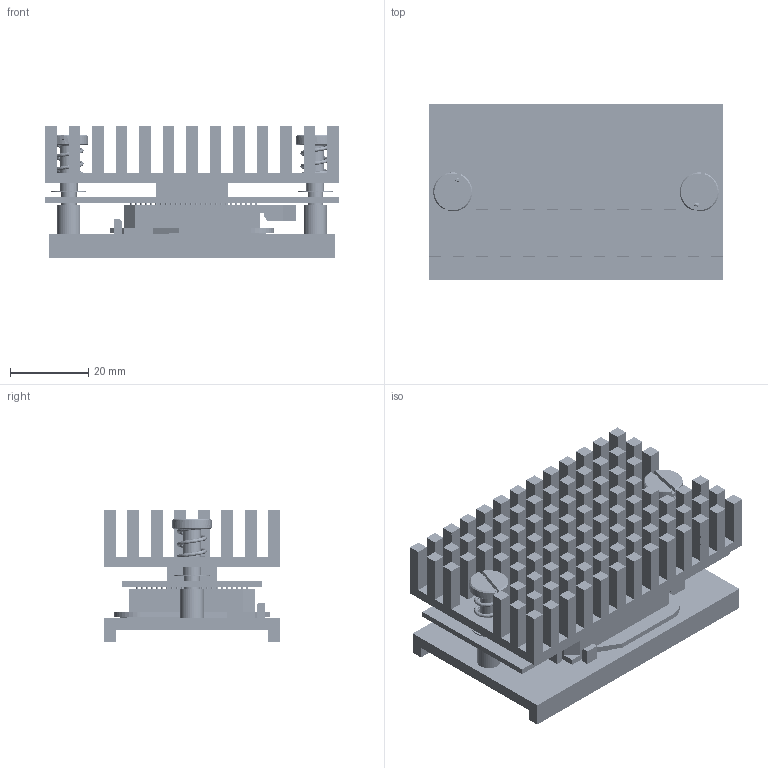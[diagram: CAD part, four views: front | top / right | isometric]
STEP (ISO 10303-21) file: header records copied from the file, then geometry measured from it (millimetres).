
FILE_DESCRIPTION (( 'STEP AP214' ), '1' );
FILE_NAME ('2514395.STEP', '2014-12-23T20:43:28', ( '' ), ( '' ), 'SwSTEP 2.0', 'SolidWorks 2013', '' );
FILE_SCHEMA (( 'AUTOMOTIVE_DESIGN' ));
Length unit declared in the file: millimetre
Products named in the file (19): 2511635; 2511634; 2511637; PCB-PadArray-s600; s600-sy-pcb-pad-assy; sy-pcb-pad-4-contact-1; Series600-SYS-PCB-1; 2511569; s610-HB-66-UHD-DMD_Ceramic; s610-SymbolizePad; s610-HB-66-UHD-Window; s610-HB-66-UHD-Ceramic; 2514396; 2514395; 2511728; 2511727; 5105-15 (TRUARC); LC042E01S (LEE SPRING); 2511633
Assembly tree (370 placements, depth 4):
  2514395
    2514396
    s610-HB-66-UHD-DMD_Ceramic
      s610-HB-66-UHD-Ceramic
      s610-HB-66-UHD-Window
      s610-SymbolizePad
    2511569
    2511637
      Series600-SYS-PCB-1
      s600-sy-pcb-pad-assy
        sy-pcb-pad-4-contact-1  x350
      PCB-PadArray-s600
    2511634
    2511635
    2511633  x2
    LC042E01S (LEE SPRING)  x2
    5105-15 (TRUARC)  x2
    2511727
    2511728
Bounding box: 75 x 45 x 33.49 mm (x, y, z)
Volume: 43475.4 mm3; surface area: 49582.5 mm2
Topology: 717 solids, 717 shells, 9373 faces, 18582 edges, 11084 vertices
Faces by surface type: cylinder 3671, plane 2796, cone 2154, torus 728, bspline 24
Entity records: 233882 total; most frequent: DIRECTION 40852, CARTESIAN_POINT 37181, ORIENTED_EDGE 31154, AXIS2_PLACEMENT_3D 17064, EDGE_CURVE 15577, VERTEX_POINT 9553, EDGE_LOOP 9094, CIRCLE 8793
